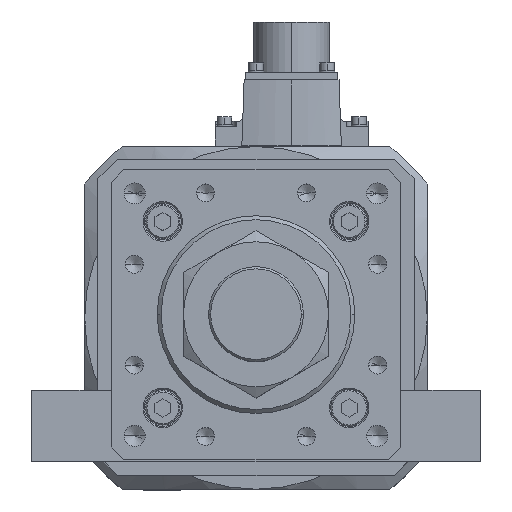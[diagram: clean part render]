
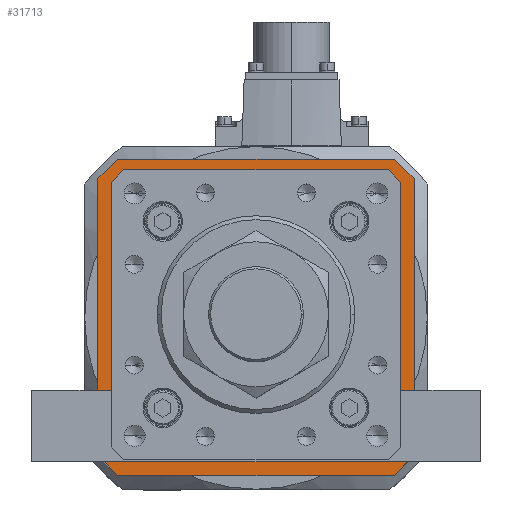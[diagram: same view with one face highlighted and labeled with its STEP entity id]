
A CAD part, top view. The second image highlights one B-rep face of the part: STEP entity #31713.
In plain terms, the highlighted planar face has unit normal (0, 0, 1).
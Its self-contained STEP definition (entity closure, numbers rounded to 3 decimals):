
#187 = VERTEX_POINT ( 'NONE', #24496 ) ;
#804 = EDGE_LOOP ( 'NONE', ( #29394, #2090, #7986, #21949, #32798, #35811, #33388, #37685 ) ) ;
#807 = LINE ( 'NONE', #35165, #23476 ) ;
#1256 = LINE ( 'NONE', #23127, #12359 ) ;
#1431 = CARTESIAN_POINT ( 'NONE',  ( -49.446, 53.646, -119. ) ) ;
#1480 = CARTESIAN_POINT ( 'NONE',  ( 49.446, -53.646, -119. ) ) ;
#1570 = LINE ( 'NONE', #35535, #18625 ) ;
#2057 = CARTESIAN_POINT ( 'NONE',  ( 60., -52.5, -119. ) ) ;
#2090 = ORIENTED_EDGE ( 'NONE', *, *, #6967, .T. ) ;
#2260 = VERTEX_POINT ( 'NONE', #15335 ) ;
#2429 = VERTEX_POINT ( 'NONE', #24823 ) ;
#2534 = DIRECTION ( 'NONE',  ( 1., 0., 0. ) ) ;
#2902 = VECTOR ( 'NONE', #6070, 1000. ) ;
#3257 = DIRECTION ( 'NONE',  ( -1., 0., 0. ) ) ;
#3466 = LINE ( 'NONE', #12333, #34424 ) ;
#3905 = DIRECTION ( 'NONE',  ( -0.707, 0.707, 0. ) ) ;
#5531 = ORIENTED_EDGE ( 'NONE', *, *, #22552, .F. ) ;
#6070 = DIRECTION ( 'NONE',  ( -1., 0., 0. ) ) ;
#6343 = EDGE_CURVE ( 'NONE', #33814, #22709, #31783, .T. ) ;
#6388 = ORIENTED_EDGE ( 'NONE', *, *, #8549, .F. ) ;
#6479 = VERTEX_POINT ( 'NONE', #21033 ) ;
#6967 = EDGE_CURVE ( 'NONE', #20946, #2260, #3466, .T. ) ;
#7141 = EDGE_CURVE ( 'NONE', #14107, #33705, #21498, .T. ) ;
#7385 = VERTEX_POINT ( 'NONE', #17490 ) ;
#7762 = FACE_OUTER_BOUND ( 'NONE', #14339, .T. ) ;
#7986 = ORIENTED_EDGE ( 'NONE', *, *, #13600, .T. ) ;
#8079 = CARTESIAN_POINT ( 'NONE',  ( 60., 52.5, -119. ) ) ;
#8190 = CARTESIAN_POINT ( 'NONE',  ( 49.593, -53.5, -119. ) ) ;
#8304 = CARTESIAN_POINT ( 'NONE',  ( 53.5, -49.8, -119. ) ) ;
#8511 = CARTESIAN_POINT ( 'NONE',  ( 52.5, 60., -119. ) ) ;
#8549 = EDGE_CURVE ( 'NONE', #7385, #30140, #1570, .T. ) ;
#8655 = EDGE_CURVE ( 'NONE', #6479, #33814, #25522, .T. ) ;
#8894 = DIRECTION ( 'NONE',  ( 0.707, 0.707, 0. ) ) ;
#9064 = EDGE_CURVE ( 'NONE', #33705, #6479, #31123, .T. ) ;
#9608 = LINE ( 'NONE', #27283, #30857 ) ;
#9723 = VERTEX_POINT ( 'NONE', #36725 ) ;
#9946 = EDGE_CURVE ( 'NONE', #11406, #9723, #15328, .T. ) ;
#10360 = VECTOR ( 'NONE', #24280, 1000. ) ;
#10808 = CARTESIAN_POINT ( 'NONE',  ( 60., -52.5, -119. ) ) ;
#11406 = VERTEX_POINT ( 'NONE', #37143 ) ;
#11445 = CARTESIAN_POINT ( 'NONE',  ( 60., 52.5, -119. ) ) ;
#11600 = PLANE ( 'NONE',  #33733 ) ;
#12033 = EDGE_CURVE ( 'NONE', #28648, #20946, #807, .T. ) ;
#12270 = CARTESIAN_POINT ( 'NONE',  ( -49.8, -53.5, -119. ) ) ;
#12333 = CARTESIAN_POINT ( 'NONE',  ( 53.646, 49.446, -119. ) ) ;
#12348 = EDGE_CURVE ( 'NONE', #2429, #14388, #1256, .T. ) ;
#12359 = VECTOR ( 'NONE', #16807, 1000. ) ;
#13249 = LINE ( 'NONE', #8304, #28012 ) ;
#13600 = EDGE_CURVE ( 'NONE', #2260, #14107, #13249, .T. ) ;
#13640 = VECTOR ( 'NONE', #34407, 1000. ) ;
#14107 = VERTEX_POINT ( 'NONE', #29297 ) ;
#14290 = DIRECTION ( 'NONE',  ( 0., 0., 1. ) ) ;
#14339 = EDGE_LOOP ( 'NONE', ( #21167, #32837, #26299, #23667, #6388, #28241, #5531, #36695 ) ) ;
#14388 = VERTEX_POINT ( 'NONE', #15709 ) ;
#15292 = VECTOR ( 'NONE', #28710, 1000. ) ;
#15328 = LINE ( 'NONE', #11445, #19957 ) ;
#15335 = CARTESIAN_POINT ( 'NONE',  ( 53.5, 49.593, -119. ) ) ;
#15709 = CARTESIAN_POINT ( 'NONE',  ( -60., 52.5, -119. ) ) ;
#16025 = DIRECTION ( 'NONE',  ( 0.707, 0.707, 0. ) ) ;
#16807 = DIRECTION ( 'NONE',  ( 0., 1., 0. ) ) ;
#17490 = CARTESIAN_POINT ( 'NONE',  ( 52.5, -60., -119. ) ) ;
#17524 = CARTESIAN_POINT ( 'NONE',  ( 0., 0., -119. ) ) ;
#17861 = EDGE_CURVE ( 'NONE', #22709, #28648, #19503, .T. ) ;
#18625 = VECTOR ( 'NONE', #3257, 1000. ) ;
#19012 = VECTOR ( 'NONE', #16025, 1000. ) ;
#19146 = VECTOR ( 'NONE', #8894, 1000. ) ;
#19455 = VECTOR ( 'NONE', #2534, 1000. ) ;
#19503 = LINE ( 'NONE', #1431, #19012 ) ;
#19953 = DIRECTION ( 'NONE',  ( 0.707, -0.707, 0. ) ) ;
#19957 = VECTOR ( 'NONE', #19953, 1000. ) ;
#20005 = CARTESIAN_POINT ( 'NONE',  ( 49.593, 53.5, -119. ) ) ;
#20172 = EDGE_CURVE ( 'NONE', #30140, #2429, #9608, .T. ) ;
#20380 = VERTEX_POINT ( 'NONE', #10808 ) ;
#20559 = VECTOR ( 'NONE', #28779, 1000. ) ;
#20946 = VERTEX_POINT ( 'NONE', #20005 ) ;
#21033 = CARTESIAN_POINT ( 'NONE',  ( -49.593, -53.5, -119. ) ) ;
#21167 = ORIENTED_EDGE ( 'NONE', *, *, #37006, .F. ) ;
#21345 = DIRECTION ( 'NONE',  ( 1., 0., 0. ) ) ;
#21498 = LINE ( 'NONE', #1480, #13640 ) ;
#21949 = ORIENTED_EDGE ( 'NONE', *, *, #7141, .T. ) ;
#22552 = EDGE_CURVE ( 'NONE', #9723, #20380, #36051, .T. ) ;
#22709 = VERTEX_POINT ( 'NONE', #26364 ) ;
#23127 = CARTESIAN_POINT ( 'NONE',  ( -60., 52.5, -119. ) ) ;
#23338 = DIRECTION ( 'NONE',  ( 1., 0., 0. ) ) ;
#23476 = VECTOR ( 'NONE', #21345, 1000. ) ;
#23667 = ORIENTED_EDGE ( 'NONE', *, *, #20172, .F. ) ;
#24280 = DIRECTION ( 'NONE',  ( -0.707, 0.707, 0. ) ) ;
#24496 = CARTESIAN_POINT ( 'NONE',  ( -52.5, 60., -119. ) ) ;
#24823 = CARTESIAN_POINT ( 'NONE',  ( -60., -52.5, -119. ) ) ;
#25100 = LINE ( 'NONE', #26400, #19146 ) ;
#25522 = LINE ( 'NONE', #36036, #10360 ) ;
#25848 = LINE ( 'NONE', #8511, #19455 ) ;
#26171 = EDGE_CURVE ( 'NONE', #20380, #7385, #30283, .T. ) ;
#26299 = ORIENTED_EDGE ( 'NONE', *, *, #12348, .F. ) ;
#26364 = CARTESIAN_POINT ( 'NONE',  ( -53.5, 49.593, -119. ) ) ;
#26400 = CARTESIAN_POINT ( 'NONE',  ( -52.5, 60., -119. ) ) ;
#26447 = DIRECTION ( 'NONE',  ( 0., 1., 0. ) ) ;
#26522 = CARTESIAN_POINT ( 'NONE',  ( -52.5, -60., -119. ) ) ;
#27115 = VECTOR ( 'NONE', #26447, 1000. ) ;
#27283 = CARTESIAN_POINT ( 'NONE',  ( -52.5, -60., -119. ) ) ;
#28012 = VECTOR ( 'NONE', #28939, 1000. ) ;
#28241 = ORIENTED_EDGE ( 'NONE', *, *, #26171, .F. ) ;
#28648 = VERTEX_POINT ( 'NONE', #32956 ) ;
#28710 = DIRECTION ( 'NONE',  ( 0., -1., 0. ) ) ;
#28779 = DIRECTION ( 'NONE',  ( -0.707, -0.707, 0. ) ) ;
#28939 = DIRECTION ( 'NONE',  ( 0., -1., 0. ) ) ;
#29094 = CARTESIAN_POINT ( 'NONE',  ( -53.5, -49.593, -119. ) ) ;
#29297 = CARTESIAN_POINT ( 'NONE',  ( 53.5, -49.593, -119. ) ) ;
#29394 = ORIENTED_EDGE ( 'NONE', *, *, #12033, .T. ) ;
#30042 = DIRECTION ( 'NONE',  ( 0.707, -0.707, 0. ) ) ;
#30140 = VERTEX_POINT ( 'NONE', #26522 ) ;
#30283 = LINE ( 'NONE', #2057, #20559 ) ;
#30857 = VECTOR ( 'NONE', #3905, 1000. ) ;
#31123 = LINE ( 'NONE', #12270, #2902 ) ;
#31713 = ADVANCED_FACE ( 'NONE', ( #31750, #7762 ), #11600, .T. ) ;
#31750 = FACE_BOUND ( 'NONE', #804, .T. ) ;
#31783 = LINE ( 'NONE', #35243, #27115 ) ;
#32798 = ORIENTED_EDGE ( 'NONE', *, *, #9064, .T. ) ;
#32837 = ORIENTED_EDGE ( 'NONE', *, *, #34913, .F. ) ;
#32956 = CARTESIAN_POINT ( 'NONE',  ( -49.593, 53.5, -119. ) ) ;
#33388 = ORIENTED_EDGE ( 'NONE', *, *, #6343, .T. ) ;
#33705 = VERTEX_POINT ( 'NONE', #8190 ) ;
#33733 = AXIS2_PLACEMENT_3D ( 'NONE', #17524, #14290, #23338 ) ;
#33814 = VERTEX_POINT ( 'NONE', #29094 ) ;
#34407 = DIRECTION ( 'NONE',  ( -0.707, -0.707, 0. ) ) ;
#34424 = VECTOR ( 'NONE', #30042, 1000. ) ;
#34913 = EDGE_CURVE ( 'NONE', #14388, #187, #25100, .T. ) ;
#35165 = CARTESIAN_POINT ( 'NONE',  ( 49.8, 53.5, -119. ) ) ;
#35243 = CARTESIAN_POINT ( 'NONE',  ( -53.5, 49.8, -119. ) ) ;
#35535 = CARTESIAN_POINT ( 'NONE',  ( 52.5, -60., -119. ) ) ;
#35811 = ORIENTED_EDGE ( 'NONE', *, *, #8655, .T. ) ;
#36036 = CARTESIAN_POINT ( 'NONE',  ( -53.646, -49.446, -119. ) ) ;
#36051 = LINE ( 'NONE', #8079, #15292 ) ;
#36695 = ORIENTED_EDGE ( 'NONE', *, *, #9946, .F. ) ;
#36725 = CARTESIAN_POINT ( 'NONE',  ( 60., 52.5, -119. ) ) ;
#37006 = EDGE_CURVE ( 'NONE', #187, #11406, #25848, .T. ) ;
#37143 = CARTESIAN_POINT ( 'NONE',  ( 52.5, 60., -119. ) ) ;
#37685 = ORIENTED_EDGE ( 'NONE', *, *, #17861, .T. ) ;
